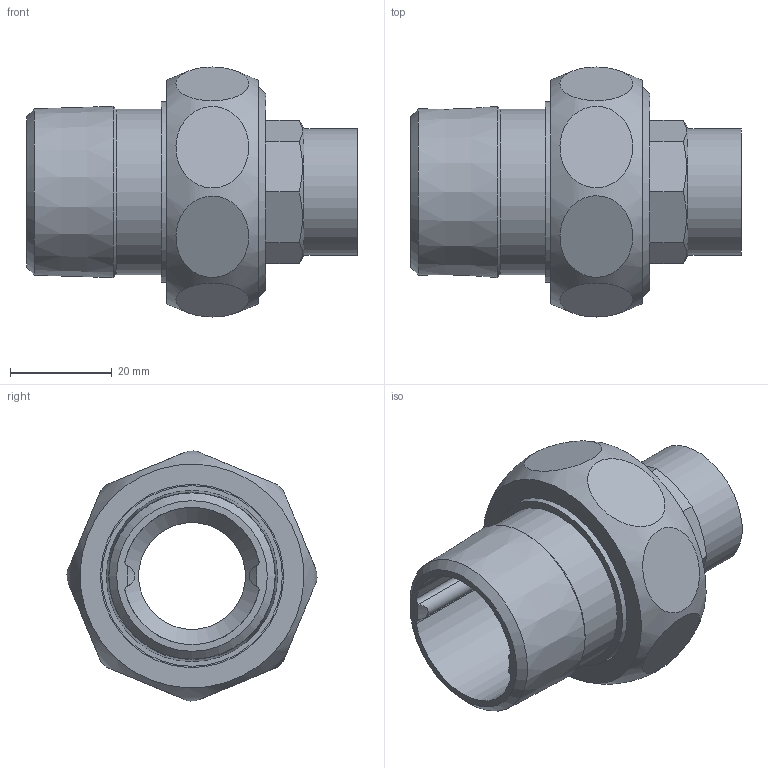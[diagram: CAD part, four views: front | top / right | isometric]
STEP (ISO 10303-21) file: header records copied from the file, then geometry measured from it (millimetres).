
FILE_DESCRIPTION((''),'2;1');
FILE_NAME('G:\Engineering\Public\RYSUNKI\SANHA POLSKA\4331g\step\14331g_22-1(2).stp','2013-09-18T07:29:37',('haldrzynski'),(''),'Autodesk Inventor 2009','Autodesk Inventor 2009','');
FILE_SCHEMA(('AUTOMOTIVE_DESIGN { 1 0 10303 214 1 1 1 1 }'));
Length unit declared in the file: millimetre
Products named in the file (5): 14331g_22-1(2); 14371_1-114(1); 14374_114(1); 1DCU114; 14370_22-114(2)
Assembly tree (4 placements, depth 2):
  14331g_22-1(2)
    14371_1-114(1)
    14374_114(1)
    1DCU114
    14370_22-114(2)
Bounding box: 65 x 49.15 x 49.15 mm (x, y, z)
Volume: 33984.7 mm3; surface area: 21773.1 mm2
Topology: 4 solids, 4 shells, 62 faces, 127 edges, 85 vertices
Faces by surface type: plane 29, cylinder 20, cone 12, bspline 1
Full cylindrical faces by diameter (mm): 21 x1, 22 x1, 25 x1, 27 x2, 32.5 x1, 35.5 x1, 36 x1, 38 x1, 38.5 x1, 38.952 x1, 41.91 x1
Entity records: 3106 total; most frequent: CARTESIAN_POINT 1741, DIRECTION 260, ORIENTED_EDGE 208, AXIS2_PLACEMENT_3D 118, EDGE_CURVE 104, EDGE_LOOP 104, VERTEX_POINT 84, FACE_OUTER_BOUND 62
